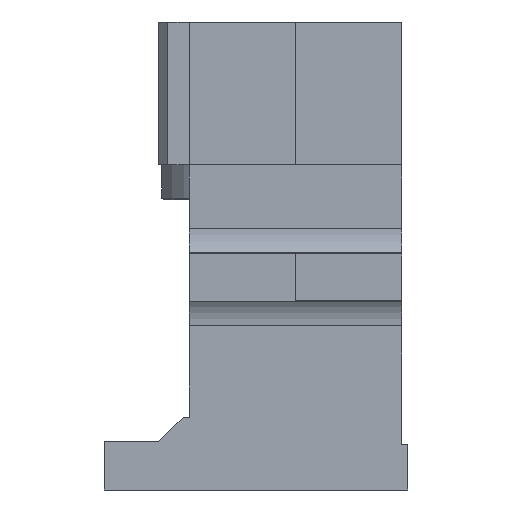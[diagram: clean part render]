
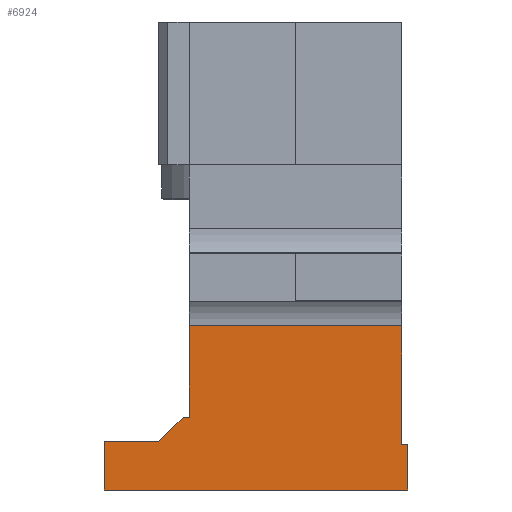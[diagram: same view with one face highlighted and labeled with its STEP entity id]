
A CAD part, left-side view. The second image highlights one B-rep face of the part: STEP entity #6924.
In plain terms, the highlighted planar face has unit normal (-1, 0, 0).
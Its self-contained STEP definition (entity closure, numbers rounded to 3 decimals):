
#21 = DIRECTION ( 'NONE',  ( 0., 0., 1. ) ) ;
#173 = ORIENTED_EDGE ( 'NONE', *, *, #6743, .T. ) ;
#376 = VERTEX_POINT ( 'NONE', #6053 ) ;
#487 = VERTEX_POINT ( 'NONE', #6599 ) ;
#617 = LINE ( 'NONE', #1905, #857 ) ;
#628 = LINE ( 'NONE', #9152, #4140 ) ;
#812 = VECTOR ( 'NONE', #6889, 1000. ) ;
#857 = VECTOR ( 'NONE', #1270, 1000. ) ;
#894 = LINE ( 'NONE', #4129, #2637 ) ;
#990 = CARTESIAN_POINT ( 'NONE',  ( -50., 32., -126. ) ) ;
#1115 = EDGE_CURVE ( 'NONE', #3073, #7910, #9589, .T. ) ;
#1126 = ORIENTED_EDGE ( 'NONE', *, *, #9017, .F. ) ;
#1270 = DIRECTION ( 'NONE',  ( 0., 0., 1. ) ) ;
#1533 = CARTESIAN_POINT ( 'NONE',  ( -50., -50., -142. ) ) ;
#1651 = CARTESIAN_POINT ( 'NONE',  ( -50., -50., -126. ) ) ;
#1861 = DIRECTION ( 'NONE',  ( 0., 1., 0. ) ) ;
#1905 = CARTESIAN_POINT ( 'NONE',  ( -50., 22., -126. ) ) ;
#1912 = VERTEX_POINT ( 'NONE', #9110 ) ;
#1931 = VECTOR ( 'NONE', #4699, 1000. ) ;
#1965 = CARTESIAN_POINT ( 'NONE',  ( -50., 22., -127. ) ) ;
#2061 = CARTESIAN_POINT ( 'NONE',  ( -50., -48., -127. ) ) ;
#2268 = ORIENTED_EDGE ( 'NONE', *, *, #9111, .T. ) ;
#2323 = DIRECTION ( 'NONE',  ( 0., 1., 0. ) ) ;
#2430 = CARTESIAN_POINT ( 'NONE',  ( -50., 22., -87.992 ) ) ;
#2447 = CARTESIAN_POINT ( 'NONE',  ( -50., -50., -127. ) ) ;
#2528 = EDGE_LOOP ( 'NONE', ( #8271, #5771, #2268, #9037, #4379, #1126, #173, #5657, #3696, #6731 ) ) ;
#2637 = VECTOR ( 'NONE', #4652, 1000. ) ;
#2973 = EDGE_CURVE ( 'NONE', #487, #7702, #628, .T. ) ;
#3050 = DIRECTION ( 'NONE',  ( 0., 1., 0. ) ) ;
#3073 = VERTEX_POINT ( 'NONE', #7921 ) ;
#3124 = DIRECTION ( 'NONE',  ( 1., 0., 0. ) ) ;
#3232 = DIRECTION ( 'NONE',  ( 0., 1., 0. ) ) ;
#3509 = VERTEX_POINT ( 'NONE', #2061 ) ;
#3598 = CARTESIAN_POINT ( 'NONE',  ( -50., 50., -126. ) ) ;
#3647 = CARTESIAN_POINT ( 'NONE',  ( -50., 22., -118. ) ) ;
#3696 = ORIENTED_EDGE ( 'NONE', *, *, #3862, .F. ) ;
#3862 = EDGE_CURVE ( 'NONE', #487, #376, #6200, .T. ) ;
#3947 = PLANE ( 'NONE',  #8648 ) ;
#4039 = CARTESIAN_POINT ( 'NONE',  ( -50., 22., -126. ) ) ;
#4129 = CARTESIAN_POINT ( 'NONE',  ( -50., -48., -126. ) ) ;
#4140 = VECTOR ( 'NONE', #21, 1000. ) ;
#4379 = ORIENTED_EDGE ( 'NONE', *, *, #1115, .T. ) ;
#4466 = EDGE_CURVE ( 'NONE', #376, #6628, #9194, .T. ) ;
#4505 = FACE_OUTER_BOUND ( 'NONE', #2528, .T. ) ;
#4607 = DIRECTION ( 'NONE',  ( 0., 1., 0. ) ) ;
#4626 = VERTEX_POINT ( 'NONE', #990 ) ;
#4652 = DIRECTION ( 'NONE',  ( 0., 0., 1. ) ) ;
#4699 = DIRECTION ( 'NONE',  ( 0., 1., 0. ) ) ;
#5331 = VECTOR ( 'NONE', #1861, 1000. ) ;
#5373 = CARTESIAN_POINT ( 'NONE',  ( -50., 24., -118. ) ) ;
#5657 = ORIENTED_EDGE ( 'NONE', *, *, #4466, .F. ) ;
#5771 = ORIENTED_EDGE ( 'NONE', *, *, #7141, .T. ) ;
#6034 = EDGE_CURVE ( 'NONE', #7702, #3509, #9279, .T. ) ;
#6053 = CARTESIAN_POINT ( 'NONE',  ( -50., 50., -142. ) ) ;
#6099 = VECTOR ( 'NONE', #3232, 1000. ) ;
#6200 = LINE ( 'NONE', #1533, #7981 ) ;
#6218 = VERTEX_POINT ( 'NONE', #6335 ) ;
#6335 = CARTESIAN_POINT ( 'NONE',  ( -50., -48., -87.992 ) ) ;
#6599 = CARTESIAN_POINT ( 'NONE',  ( -50., -50., -142. ) ) ;
#6628 = VERTEX_POINT ( 'NONE', #3598 ) ;
#6731 = ORIENTED_EDGE ( 'NONE', *, *, #2973, .T. ) ;
#6743 = EDGE_CURVE ( 'NONE', #4626, #6628, #7707, .T. ) ;
#6775 = CARTESIAN_POINT ( 'NONE',  ( -50., 50., -142. ) ) ;
#6889 = DIRECTION ( 'NONE',  ( 0., 0., 1. ) ) ;
#6924 = ADVANCED_FACE ( 'NONE', ( #4505 ), #3947, .F. ) ;
#7141 = EDGE_CURVE ( 'NONE', #3509, #6218, #894, .T. ) ;
#7547 = LINE ( 'NONE', #8350, #8998 ) ;
#7702 = VERTEX_POINT ( 'NONE', #2447 ) ;
#7707 = LINE ( 'NONE', #1651, #1931 ) ;
#7717 = VECTOR ( 'NONE', #4607, 1000. ) ;
#7910 = VERTEX_POINT ( 'NONE', #5373 ) ;
#7921 = CARTESIAN_POINT ( 'NONE',  ( -50., 22., -118. ) ) ;
#7981 = VECTOR ( 'NONE', #2323, 1000. ) ;
#8271 = ORIENTED_EDGE ( 'NONE', *, *, #6034, .T. ) ;
#8350 = CARTESIAN_POINT ( 'NONE',  ( -50., 32., -126. ) ) ;
#8625 = EDGE_CURVE ( 'NONE', #3073, #1912, #617, .T. ) ;
#8648 = AXIS2_PLACEMENT_3D ( 'NONE', #4039, #3124, #3050 ) ;
#8782 = LINE ( 'NONE', #2430, #6099 ) ;
#8998 = VECTOR ( 'NONE', #9054, 1000. ) ;
#9017 = EDGE_CURVE ( 'NONE', #4626, #7910, #7547, .T. ) ;
#9037 = ORIENTED_EDGE ( 'NONE', *, *, #8625, .F. ) ;
#9054 = DIRECTION ( 'NONE',  ( 0., -0.707, 0.707 ) ) ;
#9110 = CARTESIAN_POINT ( 'NONE',  ( -50., 22., -87.992 ) ) ;
#9111 = EDGE_CURVE ( 'NONE', #6218, #1912, #8782, .T. ) ;
#9152 = CARTESIAN_POINT ( 'NONE',  ( -50., -50., -142. ) ) ;
#9194 = LINE ( 'NONE', #6775, #812 ) ;
#9279 = LINE ( 'NONE', #1965, #5331 ) ;
#9589 = LINE ( 'NONE', #3647, #7717 ) ;
